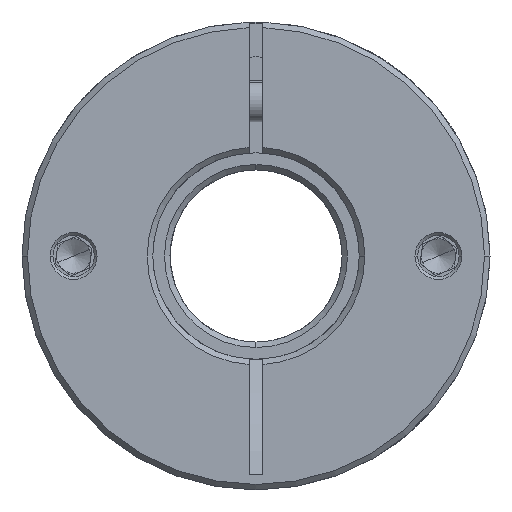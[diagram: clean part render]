
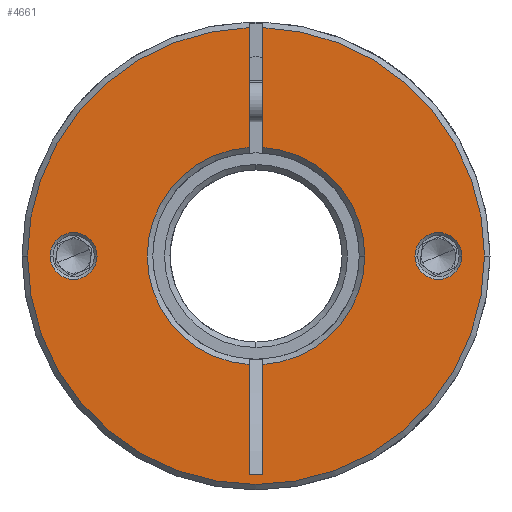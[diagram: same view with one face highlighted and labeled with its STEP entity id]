
A CAD part, front view. The second image highlights one B-rep face of the part: STEP entity #4661.
In plain terms, the highlighted planar face has unit normal (0, -1, 0).
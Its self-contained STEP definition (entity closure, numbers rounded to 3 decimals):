
#102 = DIRECTION ( 'NONE',  ( 0., -1., 0. ) ) ;
#251 = DIRECTION ( 'NONE',  ( 1., 0., 0. ) ) ;
#270 = CARTESIAN_POINT ( 'NONE',  ( -3.735, -47.045, 52.232 ) ) ;
#328 = VERTEX_POINT ( 'NONE', #11247 ) ;
#334 = VERTEX_POINT ( 'NONE', #1871 ) ;
#352 = CARTESIAN_POINT ( 'NONE',  ( 30.465, -47.045, 68. ) ) ;
#378 = CARTESIAN_POINT ( 'NONE',  ( -3.735, -47.045, 101.185 ) ) ;
#446 = ORIENTED_EDGE ( 'NONE', *, *, #9285, .T. ) ;
#699 = ORIENTED_EDGE ( 'NONE', *, *, #6091, .T. ) ;
#790 = AXIS2_PLACEMENT_3D ( 'NONE', #3586, #2610, #11750 ) ;
#847 = DIRECTION ( 'NONE',  ( 0., 1., 0. ) ) ;
#879 = EDGE_LOOP ( 'NONE', ( #9580, #12494, #1037, #2466, #10179, #699, #8533, #5333, #446, #2565, #2482 ) ) ;
#985 = AXIS2_PLACEMENT_3D ( 'NONE', #2071, #13184, #2965 ) ;
#1037 = ORIENTED_EDGE ( 'NONE', *, *, #2170, .T. ) ;
#1063 = VECTOR ( 'NONE', #3534, 1000. ) ;
#1071 = VERTEX_POINT ( 'NONE', #352 ) ;
#1130 = PLANE ( 'NONE',  #7417 ) ;
#1545 = AXIS2_PLACEMENT_3D ( 'NONE', #4155, #5371, #251 ) ;
#1548 = DIRECTION ( 'NONE',  ( 0., 1., 0. ) ) ;
#1555 = LINE ( 'NONE', #6795, #2055 ) ;
#1661 = EDGE_CURVE ( 'NONE', #334, #5626, #5078, .T. ) ;
#1691 = LINE ( 'NONE', #7714, #12460 ) ;
#1723 = CIRCLE ( 'NONE', #6077, 33.2 ) ;
#1813 = CARTESIAN_POINT ( 'NONE',  ( 13.065, -47.045, 68. ) ) ;
#1871 = CARTESIAN_POINT ( 'NONE',  ( -1.735, -47.045, 101.185 ) ) ;
#2055 = VECTOR ( 'NONE', #2715, 1000. ) ;
#2062 = CARTESIAN_POINT ( 'NONE',  ( -1.735, -47.045, 36.279 ) ) ;
#2071 = CARTESIAN_POINT ( 'NONE',  ( -29.235, -47.045, 68. ) ) ;
#2116 = CIRCLE ( 'NONE', #2856, 15.8 ) ;
#2170 = EDGE_CURVE ( 'NONE', #10196, #1071, #1723, .T. ) ;
#2349 = VECTOR ( 'NONE', #6787, 1000. ) ;
#2466 = ORIENTED_EDGE ( 'NONE', *, *, #7618, .T. ) ;
#2482 = ORIENTED_EDGE ( 'NONE', *, *, #6581, .T. ) ;
#2512 = AXIS2_PLACEMENT_3D ( 'NONE', #9805, #5740, #10984 ) ;
#2558 = CARTESIAN_POINT ( 'NONE',  ( -29.235, -47.045, 68. ) ) ;
#2565 = ORIENTED_EDGE ( 'NONE', *, *, #3019, .F. ) ;
#2610 = DIRECTION ( 'NONE',  ( 0., 1., 0. ) ) ;
#2715 = DIRECTION ( 'NONE',  ( 0., 0., -1. ) ) ;
#2717 = DIRECTION ( 'NONE',  ( 0., 0., -1. ) ) ;
#2856 = AXIS2_PLACEMENT_3D ( 'NONE', #5964, #13179, #7010 ) ;
#2965 = DIRECTION ( 'NONE',  ( 1., 0., 0. ) ) ;
#3019 = EDGE_CURVE ( 'NONE', #8821, #10878, #4238, .T. ) ;
#3147 = CARTESIAN_POINT ( 'NONE',  ( -2.735, -47.045, 68. ) ) ;
#3392 = EDGE_CURVE ( 'NONE', #6680, #12466, #9546, .T. ) ;
#3432 = VERTEX_POINT ( 'NONE', #1813 ) ;
#3534 = DIRECTION ( 'NONE',  ( 0., 0., -1. ) ) ;
#3586 = CARTESIAN_POINT ( 'NONE',  ( 23.765, -47.045, 68. ) ) ;
#3858 = VERTEX_POINT ( 'NONE', #378 ) ;
#4155 = CARTESIAN_POINT ( 'NONE',  ( -2.735, -47.045, 68. ) ) ;
#4172 = CIRCLE ( 'NONE', #6558, 15.8 ) ;
#4185 = DIRECTION ( 'NONE',  ( 1., 0., 0. ) ) ;
#4217 = FACE_BOUND ( 'NONE', #8342, .T. ) ;
#4238 = LINE ( 'NONE', #4627, #2349 ) ;
#4587 = CARTESIAN_POINT ( 'NONE',  ( -1.735, -47.045, 83.768 ) ) ;
#4627 = CARTESIAN_POINT ( 'NONE',  ( -3.735, -47.045, 68. ) ) ;
#4661 = ADVANCED_FACE ( 'NONE', ( #4217, #11155, #13089 ), #1130, .T. ) ;
#5078 = LINE ( 'NONE', #5132, #6208 ) ;
#5132 = CARTESIAN_POINT ( 'NONE',  ( -1.735, -47.045, 68. ) ) ;
#5224 = ORIENTED_EDGE ( 'NONE', *, *, #5648, .T. ) ;
#5309 = CIRCLE ( 'NONE', #985, 3.4 ) ;
#5333 = ORIENTED_EDGE ( 'NONE', *, *, #3392, .T. ) ;
#5371 = DIRECTION ( 'NONE',  ( 0., -1., 0. ) ) ;
#5626 = VERTEX_POINT ( 'NONE', #4587 ) ;
#5648 = EDGE_CURVE ( 'NONE', #11407, #12213, #11911, .T. ) ;
#5669 = EDGE_CURVE ( 'NONE', #10675, #12439, #5309, .T. ) ;
#5696 = CARTESIAN_POINT ( 'NONE',  ( -2.735, -47.045, 68. ) ) ;
#5740 = DIRECTION ( 'NONE',  ( 0., 1., 0. ) ) ;
#5964 = CARTESIAN_POINT ( 'NONE',  ( -2.735, -47.045, 68. ) ) ;
#6065 = CARTESIAN_POINT ( 'NONE',  ( 27.165, -47.045, 68. ) ) ;
#6077 = AXIS2_PLACEMENT_3D ( 'NONE', #8364, #102, #9373 ) ;
#6091 = EDGE_CURVE ( 'NONE', #5626, #3432, #4172, .T. ) ;
#6208 = VECTOR ( 'NONE', #2717, 1000. ) ;
#6558 = AXIS2_PLACEMENT_3D ( 'NONE', #6960, #847, #7889 ) ;
#6581 = EDGE_CURVE ( 'NONE', #8821, #328, #2116, .T. ) ;
#6654 = DIRECTION ( 'NONE',  ( 0., -1., 0. ) ) ;
#6680 = VERTEX_POINT ( 'NONE', #8503 ) ;
#6777 = CARTESIAN_POINT ( 'NONE',  ( -2.735, -47.045, 68. ) ) ;
#6787 = DIRECTION ( 'NONE',  ( 0., 0., -1. ) ) ;
#6795 = CARTESIAN_POINT ( 'NONE',  ( -3.735, -47.045, 68. ) ) ;
#6872 = CARTESIAN_POINT ( 'NONE',  ( -35.935, -47.045, 68. ) ) ;
#6960 = CARTESIAN_POINT ( 'NONE',  ( -2.735, -47.045, 68. ) ) ;
#7010 = DIRECTION ( 'NONE',  ( 1., 0., 0. ) ) ;
#7417 = AXIS2_PLACEMENT_3D ( 'NONE', #3147, #8313, #4185 ) ;
#7536 = EDGE_LOOP ( 'NONE', ( #11271, #8114 ) ) ;
#7591 = EDGE_CURVE ( 'NONE', #12213, #11407, #10244, .T. ) ;
#7599 = CIRCLE ( 'NONE', #8986, 15.8 ) ;
#7618 = EDGE_CURVE ( 'NONE', #1071, #334, #9096, .T. ) ;
#7714 = CARTESIAN_POINT ( 'NONE',  ( -3.735, -47.045, 36.279 ) ) ;
#7842 = AXIS2_PLACEMENT_3D ( 'NONE', #5696, #6654, #12916 ) ;
#7889 = DIRECTION ( 'NONE',  ( 1., 0., 0. ) ) ;
#8114 = ORIENTED_EDGE ( 'NONE', *, *, #5669, .T. ) ;
#8313 = DIRECTION ( 'NONE',  ( 0., -1., 0. ) ) ;
#8342 = EDGE_LOOP ( 'NONE', ( #5224, #8972 ) ) ;
#8343 = CARTESIAN_POINT ( 'NONE',  ( -32.635, -47.045, 68. ) ) ;
#8362 = EDGE_CURVE ( 'NONE', #3858, #328, #1555, .T. ) ;
#8364 = CARTESIAN_POINT ( 'NONE',  ( -2.735, -47.045, 68. ) ) ;
#8503 = CARTESIAN_POINT ( 'NONE',  ( -1.735, -47.045, 52.232 ) ) ;
#8533 = ORIENTED_EDGE ( 'NONE', *, *, #11007, .T. ) ;
#8691 = CARTESIAN_POINT ( 'NONE',  ( -3.735, -47.045, 36.279 ) ) ;
#8727 = CARTESIAN_POINT ( 'NONE',  ( -1.735, -47.045, 68. ) ) ;
#8821 = VERTEX_POINT ( 'NONE', #270 ) ;
#8972 = ORIENTED_EDGE ( 'NONE', *, *, #7591, .T. ) ;
#8986 = AXIS2_PLACEMENT_3D ( 'NONE', #6777, #11908, #12955 ) ;
#9096 = CIRCLE ( 'NONE', #7842, 33.2 ) ;
#9285 = EDGE_CURVE ( 'NONE', #12466, #10878, #1691, .T. ) ;
#9373 = DIRECTION ( 'NONE',  ( 1., 0., 0. ) ) ;
#9395 = CARTESIAN_POINT ( 'NONE',  ( -25.835, -47.045, 68. ) ) ;
#9546 = LINE ( 'NONE', #8727, #1063 ) ;
#9580 = ORIENTED_EDGE ( 'NONE', *, *, #8362, .F. ) ;
#9722 = CARTESIAN_POINT ( 'NONE',  ( 20.365, -47.045, 68. ) ) ;
#9805 = CARTESIAN_POINT ( 'NONE',  ( 23.765, -47.045, 68. ) ) ;
#10179 = ORIENTED_EDGE ( 'NONE', *, *, #1661, .T. ) ;
#10196 = VERTEX_POINT ( 'NONE', #6872 ) ;
#10244 = CIRCLE ( 'NONE', #790, 3.4 ) ;
#10675 = VERTEX_POINT ( 'NONE', #8343 ) ;
#10878 = VERTEX_POINT ( 'NONE', #8691 ) ;
#10889 = DIRECTION ( 'NONE',  ( -1., 0., 0. ) ) ;
#10920 = CIRCLE ( 'NONE', #12550, 3.4 ) ;
#10984 = DIRECTION ( 'NONE',  ( 1., 0., 0. ) ) ;
#11007 = EDGE_CURVE ( 'NONE', #3432, #6680, #7599, .T. ) ;
#11155 = FACE_BOUND ( 'NONE', #7536, .T. ) ;
#11247 = CARTESIAN_POINT ( 'NONE',  ( -3.735, -47.045, 83.768 ) ) ;
#11271 = ORIENTED_EDGE ( 'NONE', *, *, #12705, .T. ) ;
#11407 = VERTEX_POINT ( 'NONE', #6065 ) ;
#11750 = DIRECTION ( 'NONE',  ( 1., 0., 0. ) ) ;
#11806 = DIRECTION ( 'NONE',  ( 1., 0., 0. ) ) ;
#11891 = CIRCLE ( 'NONE', #1545, 33.2 ) ;
#11908 = DIRECTION ( 'NONE',  ( 0., 1., 0. ) ) ;
#11911 = CIRCLE ( 'NONE', #2512, 3.4 ) ;
#12213 = VERTEX_POINT ( 'NONE', #9722 ) ;
#12439 = VERTEX_POINT ( 'NONE', #9395 ) ;
#12460 = VECTOR ( 'NONE', #10889, 1000. ) ;
#12466 = VERTEX_POINT ( 'NONE', #2062 ) ;
#12494 = ORIENTED_EDGE ( 'NONE', *, *, #12588, .T. ) ;
#12550 = AXIS2_PLACEMENT_3D ( 'NONE', #2558, #1548, #11806 ) ;
#12588 = EDGE_CURVE ( 'NONE', #3858, #10196, #11891, .T. ) ;
#12705 = EDGE_CURVE ( 'NONE', #12439, #10675, #10920, .T. ) ;
#12916 = DIRECTION ( 'NONE',  ( 1., 0., 0. ) ) ;
#12955 = DIRECTION ( 'NONE',  ( 1., 0., 0. ) ) ;
#13089 = FACE_OUTER_BOUND ( 'NONE', #879, .T. ) ;
#13179 = DIRECTION ( 'NONE',  ( 0., 1., 0. ) ) ;
#13184 = DIRECTION ( 'NONE',  ( 0., 1., 0. ) ) ;
